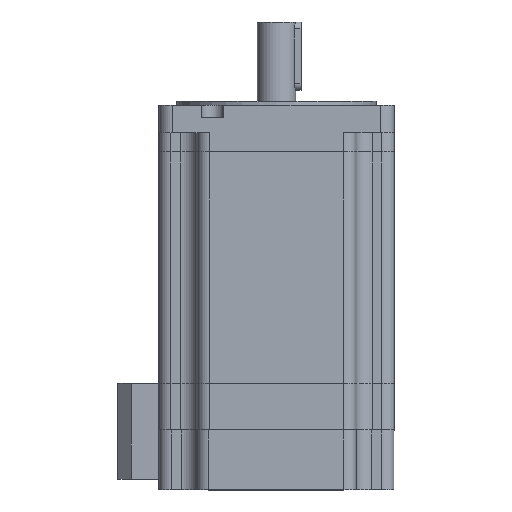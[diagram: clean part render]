
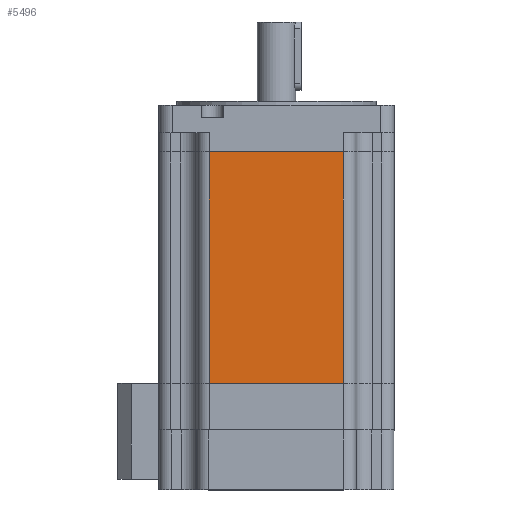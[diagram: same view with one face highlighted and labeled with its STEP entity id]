
A CAD part, top view. The second image highlights one B-rep face of the part: STEP entity #5496.
In plain terms, the highlighted planar face has unit normal (0, 0, 1).
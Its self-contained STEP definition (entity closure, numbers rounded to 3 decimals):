
#19=DIRECTION('',(1.,0.,0.));
#20=VECTOR('',#19,48.94);
#21=CARTESIAN_POINT('',(-24.47,-40.,43.));
#22=LINE('',#21,#20);
#2261=DIRECTION('',(0.,1.,0.));
#2262=VECTOR('',#2261,84.5);
#2263=CARTESIAN_POINT('',(24.47,-40.,43.));
#2264=LINE('',#2263,#2262);
#2269=DIRECTION('',(1.,0.,0.));
#2270=VECTOR('',#2269,48.94);
#2271=CARTESIAN_POINT('',(-24.47,44.5,43.));
#2272=LINE('',#2271,#2270);
#2277=DIRECTION('',(0.,-1.,0.));
#2278=VECTOR('',#2277,84.5);
#2279=CARTESIAN_POINT('',(-24.47,44.5,43.));
#2280=LINE('',#2279,#2278);
#3201=CARTESIAN_POINT('',(-24.47,-40.,43.));
#3202=VERTEX_POINT('',#3201);
#3203=CARTESIAN_POINT('',(24.47,-40.,43.));
#3204=VERTEX_POINT('',#3203);
#3733=CARTESIAN_POINT('',(24.47,44.5,43.));
#3734=VERTEX_POINT('',#3733);
#3735=CARTESIAN_POINT('',(-24.47,44.5,43.));
#3736=VERTEX_POINT('',#3735);
#5484=CARTESIAN_POINT('',(-28.97,0.,43.));
#5485=DIRECTION('',(0.,0.,1.));
#5486=DIRECTION('',(1.,0.,0.));
#5487=AXIS2_PLACEMENT_3D('',#5484,#5485,#5486);
#5488=PLANE('',#5487);
#5490=ORIENTED_EDGE('',*,*,#5489,.F.);
#5491=ORIENTED_EDGE('',*,*,#4780,.T.);
#5492=ORIENTED_EDGE('',*,*,#5477,.F.);
#5493=ORIENTED_EDGE('',*,*,#4198,.F.);
#5494=EDGE_LOOP('',(#5490,#5491,#5492,#5493));
#5495=FACE_OUTER_BOUND('',#5494,.F.);
#5496=ADVANCED_FACE('',(#5495),#5488,.T.);
#4198=EDGE_CURVE('',#3202,#3204,#22,.T.);
#4780=EDGE_CURVE('',#3736,#3734,#2272,.T.);
#5477=EDGE_CURVE('',#3204,#3734,#2264,.T.);
#5489=EDGE_CURVE('',#3736,#3202,#2280,.T.);
